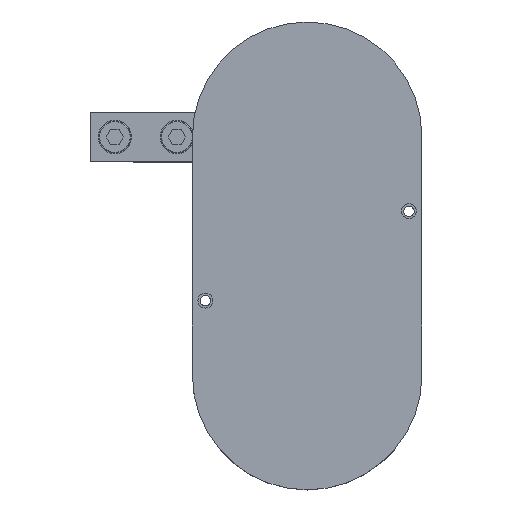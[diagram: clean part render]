
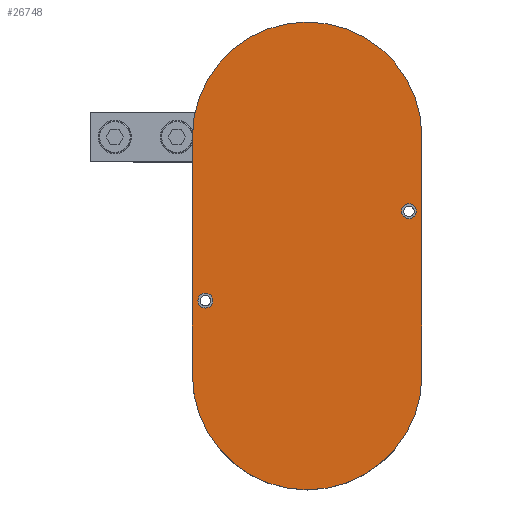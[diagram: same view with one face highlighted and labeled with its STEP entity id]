
A CAD part, top view. The second image highlights one B-rep face of the part: STEP entity #26748.
In plain terms, the highlighted planar face has unit normal (0, 0, 1) as drawn and (0, 0, -1) by its records, which use the part's own axes.
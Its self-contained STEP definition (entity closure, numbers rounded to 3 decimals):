
#709 = DIRECTION ( 'NONE',  ( 0., 0., 1. ) ) ;
#1392 = CARTESIAN_POINT ( 'NONE',  ( 41., -66., 0. ) ) ;
#2340 = LINE ( 'NONE', #51807, #42250 ) ;
#3250 = DIRECTION ( 'NONE',  ( 0., 0., 1. ) ) ;
#4008 = CARTESIAN_POINT ( 'NONE',  ( 46.25, 0., 0. ) ) ;
#4471 = DIRECTION ( 'NONE',  ( 1., 0., 0. ) ) ;
#4980 = CIRCLE ( 'NONE', #54652, 3. ) ;
#4998 = ORIENTED_EDGE ( 'NONE', *, *, #39527, .F. ) ;
#6986 = VERTEX_POINT ( 'NONE', #27947 ) ;
#8019 = CARTESIAN_POINT ( 'NONE',  ( -41., -30., 0. ) ) ;
#8679 = EDGE_CURVE ( 'NONE', #16011, #6986, #44038, .T. ) ;
#9180 = DIRECTION ( 'NONE',  ( 0., 0., -1. ) ) ;
#9271 = CARTESIAN_POINT ( 'NONE',  ( 41., -66., 0. ) ) ;
#9371 = DIRECTION ( 'NONE',  ( -1., 0., 0. ) ) ;
#9833 = ORIENTED_EDGE ( 'NONE', *, *, #29755, .F. ) ;
#9968 = DIRECTION ( 'NONE',  ( 0., 0., -1. ) ) ;
#9998 = CARTESIAN_POINT ( 'NONE',  ( 0., 0., 0. ) ) ;
#11358 = DIRECTION ( 'NONE',  ( 0., 0., -1. ) ) ;
#12716 = CIRCLE ( 'NONE', #14304, 3. ) ;
#12721 = CARTESIAN_POINT ( 'NONE',  ( 44., -66., 0. ) ) ;
#14304 = AXIS2_PLACEMENT_3D ( 'NONE', #9271, #21506, #17633 ) ;
#15012 = CIRCLE ( 'NONE', #17883, 46.25 ) ;
#15634 = DIRECTION ( 'NONE',  ( -1., 0., 0. ) ) ;
#16011 = VERTEX_POINT ( 'NONE', #31564 ) ;
#16343 = PLANE ( 'NONE',  #38943 ) ;
#17062 = AXIS2_PLACEMENT_3D ( 'NONE', #8019, #11358, #15634 ) ;
#17633 = DIRECTION ( 'NONE',  ( -1., 0., 0. ) ) ;
#17883 = AXIS2_PLACEMENT_3D ( 'NONE', #9998, #52425, #47916 ) ;
#18346 = VERTEX_POINT ( 'NONE', #36608 ) ;
#21211 = CIRCLE ( 'NONE', #53759, 3. ) ;
#21506 = DIRECTION ( 'NONE',  ( 0., 0., -1. ) ) ;
#23755 = VERTEX_POINT ( 'NONE', #4008 ) ;
#24062 = VERTEX_POINT ( 'NONE', #32607 ) ;
#26555 = CIRCLE ( 'NONE', #17062, 3. ) ;
#26748 = ADVANCED_FACE ( 'NONE', ( #43249, #31252, #51236 ), #16343, .F. ) ;
#27947 = CARTESIAN_POINT ( 'NONE',  ( 46.25, -96., 0. ) ) ;
#28852 = VECTOR ( 'NONE', #31323, 1000. ) ;
#29755 = EDGE_CURVE ( 'NONE', #6986, #23755, #2340, .T. ) ;
#30582 = ORIENTED_EDGE ( 'NONE', *, *, #41956, .F. ) ;
#31252 = FACE_BOUND ( 'NONE', #47783, .T. ) ;
#31323 = DIRECTION ( 'NONE',  ( 0., -1., 0. ) ) ;
#31448 = EDGE_CURVE ( 'NONE', #46510, #24062, #12716, .T. ) ;
#31564 = CARTESIAN_POINT ( 'NONE',  ( -46.25, -96., 0. ) ) ;
#32607 = CARTESIAN_POINT ( 'NONE',  ( 38., -66., 0. ) ) ;
#33827 = VERTEX_POINT ( 'NONE', #39857 ) ;
#34604 = AXIS2_PLACEMENT_3D ( 'NONE', #54211, #3250, #54756 ) ;
#36329 = CARTESIAN_POINT ( 'NONE',  ( -46.25, 0., 0. ) ) ;
#36608 = CARTESIAN_POINT ( 'NONE',  ( -44., -30., 0. ) ) ;
#37306 = ORIENTED_EDGE ( 'NONE', *, *, #31448, .F. ) ;
#37762 = CARTESIAN_POINT ( 'NONE',  ( 0., 0., 0. ) ) ;
#38750 = CARTESIAN_POINT ( 'NONE',  ( -41., -30., 0. ) ) ;
#38867 = EDGE_CURVE ( 'NONE', #24062, #46510, #21211, .T. ) ;
#38943 = AXIS2_PLACEMENT_3D ( 'NONE', #37762, #709, #4471 ) ;
#39527 = EDGE_CURVE ( 'NONE', #33827, #18346, #26555, .T. ) ;
#39857 = CARTESIAN_POINT ( 'NONE',  ( -38., -30., 0. ) ) ;
#41956 = EDGE_CURVE ( 'NONE', #23755, #52891, #15012, .T. ) ;
#42250 = VECTOR ( 'NONE', #46919, 1000. ) ;
#42606 = EDGE_CURVE ( 'NONE', #18346, #33827, #4980, .T. ) ;
#42808 = LINE ( 'NONE', #36329, #28852 ) ;
#43173 = ORIENTED_EDGE ( 'NONE', *, *, #8679, .F. ) ;
#43249 = FACE_OUTER_BOUND ( 'NONE', #53594, .T. ) ;
#43424 = ORIENTED_EDGE ( 'NONE', *, *, #42606, .F. ) ;
#43980 = DIRECTION ( 'NONE',  ( -1., 0., 0. ) ) ;
#44038 = CIRCLE ( 'NONE', #34604, 46.25 ) ;
#44108 = EDGE_LOOP ( 'NONE', ( #43424, #4998 ) ) ;
#45669 = CARTESIAN_POINT ( 'NONE',  ( -46.25, 0., 0. ) ) ;
#46272 = ORIENTED_EDGE ( 'NONE', *, *, #38867, .F. ) ;
#46510 = VERTEX_POINT ( 'NONE', #12721 ) ;
#46919 = DIRECTION ( 'NONE',  ( 0., 1., 0. ) ) ;
#47783 = EDGE_LOOP ( 'NONE', ( #46272, #37306 ) ) ;
#47916 = DIRECTION ( 'NONE',  ( -1., 0., 0. ) ) ;
#48224 = ORIENTED_EDGE ( 'NONE', *, *, #54761, .F. ) ;
#51236 = FACE_BOUND ( 'NONE', #44108, .T. ) ;
#51807 = CARTESIAN_POINT ( 'NONE',  ( 46.25, 0., 0. ) ) ;
#52425 = DIRECTION ( 'NONE',  ( 0., 0., 1. ) ) ;
#52891 = VERTEX_POINT ( 'NONE', #45669 ) ;
#53594 = EDGE_LOOP ( 'NONE', ( #9833, #43173, #48224, #30582 ) ) ;
#53759 = AXIS2_PLACEMENT_3D ( 'NONE', #1392, #9968, #43980 ) ;
#54211 = CARTESIAN_POINT ( 'NONE',  ( 0., -96., 0. ) ) ;
#54652 = AXIS2_PLACEMENT_3D ( 'NONE', #38750, #9180, #9371 ) ;
#54756 = DIRECTION ( 'NONE',  ( -1., 0., 0. ) ) ;
#54761 = EDGE_CURVE ( 'NONE', #52891, #16011, #42808, .T. ) ;
